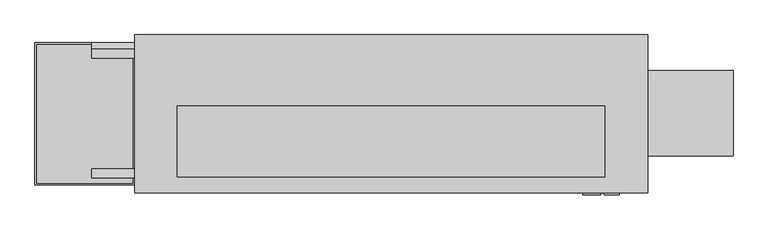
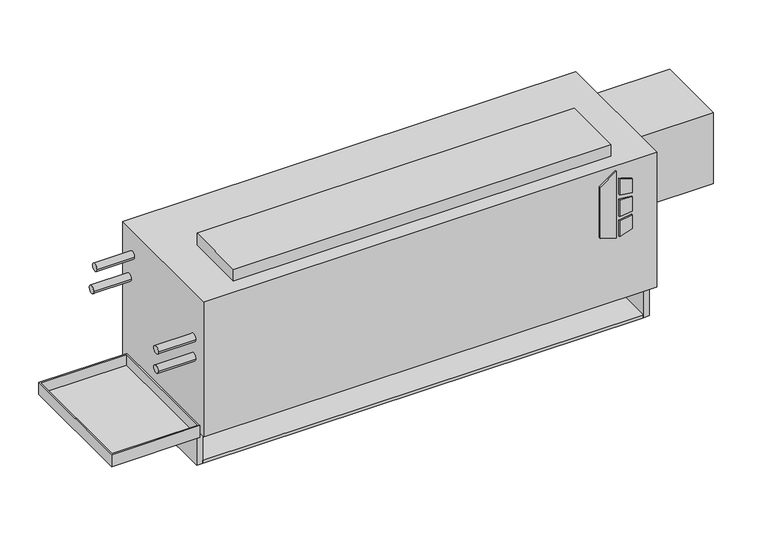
"""IFC4 building model written with IfcOpenShell, lengths in millimetres: proxy geometry, Concealed_Vertical_Low_Boy_Fan_Coil_Unit Fan_-_LHA_-_IEC_-_4-Pipe_LH_2022 : Size 04 - 277v/60Hz/1Ph - 2/1 Coil."""

from ifc_helpers import new_model, si_unit, point, frame, frame_2d, origin, origin_with_axes, place, context, project, spatial, polyline, circle_curve, trimmed, segment, composite_curve, outline, extrude, faceted_brep, source, transform, mapped, element, save


def mechanical_equipment_78d11083(model_context):
    return source(origin(), model_context, "Body", "SolidModel", [
        faceted_brep([(152.4, -252.4125, 92.075), (-25.4, -252.4125, 92.075), (-25.4, -506.4125, 92.075), (152.4, -506.4125, 92.075), (-22.225, -255.5875, 92.075), (149.225, -255.5875, 92.075), (149.225, -503.2375, 92.075), (-22.225, -503.2375, 92.075), (152.4, -252.4125, 66.675), (152.4, -506.4125, 66.675), (-25.4, -506.4125, 66.675), (-25.4, -252.4125, 66.675), (149.225, -255.5875, 69.8497888), (-22.225, -255.5875, 69.8497888), (-22.225, -503.2375, 69.8497888), (149.225, -503.2375, 69.8497888)], [[[0, 1, 2, 3], [4, 5, 6, 7]], [[8, 9, 10, 11]], [[1, 0, 8, 11]], [[2, 1, 11, 10]], [[3, 2, 10, 9]], [[0, 3, 9, 8]], [[12, 13, 14, 15]], [[13, 12, 5, 4]], [[14, 13, 4, 7]], [[15, 14, 7, 6]], [[12, 15, 6, 5]]]),
        extrude(outline(composite_curve([segment(trimmed(circle_curve(frame_2d((63.5, -379.4125)), 9.525), [point((53.975, -379.4125))], [point((73.025, -379.4125))], False, "CARTESIAN"), True, "CONTINUOUS"), segment(trimmed(circle_curve(frame_2d((63.5, -379.4125)), 9.525), [point((73.025, -379.4125))], [point((53.975, -379.4125))], False, "CARTESIAN"), True, "CONTINUOUS")], self_intersect=False)), frame((0.0, 0.0, 41.275), z_axis=(0.0, 0.0, 1.0), x_axis=(1.0, 0.0, 0.0)), (0.0, 0.0, 1.0), 25.4),
        extrude(outline(polyline([(222.6730703, 950.9868862), (212.725, 983.1602728), (354.8959244, 983.1602728), (331.8739183, 950.9868862), (222.6730703, 950.9868862)])), frame((0.0, -523.875, 0.0), z_axis=(0.0, 1.0, 0.0), x_axis=(0.0, 0.0, 1.0)), (0.0, 0.0, 1.0), 3.175),
        extrude(outline(polyline([(301.6723557, 989.9186058), (298.4699632, 1016.0), (327.6988042, 1016.0), (335.7632193, 989.9186058), (301.6723557, 989.9186058)])), frame((0.0, -523.875, 0.0), z_axis=(0.0, 1.0, 0.0), x_axis=(0.0, 0.0, 1.0)), (0.0, 0.0, 1.0), 3.175),
        extrude(outline(polyline([(249.8088288, 1016.0), (246.1433279, 989.9186058), (212.725, 989.9186058), (221.3592372, 1016.0), (249.8088288, 1016.0)])), frame((0.0, -523.875, 0.0), z_axis=(0.0, 1.0, 0.0), x_axis=(0.0, 0.0, 1.0)), (0.0, 0.0, 1.0), 3.175),
        extrude(outline(polyline([(289.1239903, 1016.0), (291.4058166, 989.9186058), (255.4682681, 989.9186058), (258.2095331, 1016.0), (289.1239903, 1016.0)])), frame((0.0, -523.875, 0.0), z_axis=(0.0, 1.0, 0.0), x_axis=(0.0, 0.0, 1.0)), (0.0, 0.0, 1.0), 3.175),
        extrude(outline(polyline([(990.6, -365.125), (990.6, -492.125), (228.6, -492.125), (228.6, -365.125), (990.6, -365.125)])), frame((0.0, 0.0, 365.125), z_axis=(0.0, 0.0, 1.0), x_axis=(1.0, 0.0, 0.0)), (0.0, 0.0, 1.0), 25.4),
        extrude(outline(polyline([(1066.8, -520.7), (152.4, -520.7), (152.4, -238.125), (1066.8, -238.125), (1066.8, -520.7)])), frame((0.0, 0.0, 76.2), z_axis=(0.0, 0.0, 1.0), x_axis=(1.0, 0.0, 0.0)), (0.0, 0.0, 1.0), 288.925),
        extrude(outline(polyline([(1054.1, -495.3), (165.1, -495.3), (165.1, -244.475), (1054.1, -244.475), (1054.1, -495.3)])), origin_with_axes(), (0.0, 0.0, 1.0), 6.35),
        extrude(outline(polyline([(1054.1, -238.125), (1054.1, -244.475), (165.1, -244.475), (165.1, -238.125), (1054.1, -238.125)])), origin_with_axes(), (0.0, 0.0, 1.0), 76.2),
        extrude(outline(polyline([(1066.8, -238.125), (1066.8, -495.3), (1054.1, -495.3), (1054.1, -238.125), (1066.8, -238.125)])), origin_with_axes(), (0.0, 0.0, 1.0), 76.2),
        extrude(outline(polyline([(165.1, -238.125), (165.1, -495.3), (152.4, -495.3), (152.4, -238.125), (165.1, -238.125)])), origin_with_axes(), (0.0, 0.0, 1.0), 76.2),
        extrude(outline(composite_curve([segment(trimmed(circle_curve(frame_2d((-271.4625, 314.325)), 7.9375), [point((-263.525, 314.325))], [point((-279.4, 314.325))], False, "CARTESIAN"), True, "CONTINUOUS"), segment(trimmed(circle_curve(frame_2d((-271.4625, 314.325)), 7.9375), [point((-279.4, 314.325))], [point((-263.525, 314.325))], False, "CARTESIAN"), True, "CONTINUOUS")], self_intersect=False)), frame((76.2, 0.0, 0.0), z_axis=(1.0, 0.0, 0.0), x_axis=(0.0, 1.0, 0.0)), (0.0, 0.0, 1.0), 76.2),
        extrude(outline(composite_curve([segment(trimmed(circle_curve(frame_2d((-260.35, 260.35)), 7.9375), [point((-252.4125, 260.35))], [point((-268.2875, 260.35))], False, "CARTESIAN"), True, "CONTINUOUS"), segment(trimmed(circle_curve(frame_2d((-260.35, 260.35)), 7.9375), [point((-268.2875, 260.35))], [point((-252.4125, 260.35))], False, "CARTESIAN"), True, "CONTINUOUS")], self_intersect=False)), frame((76.2, 0.0, 0.0), z_axis=(1.0, 0.0, 0.0), x_axis=(0.0, 1.0, 0.0)), (0.0, 0.0, 1.0), 76.2),
        extrude(outline(composite_curve([segment(trimmed(circle_curve(frame_2d((-485.775, 227.0125)), 7.9375), [point((-477.8375, 227.0125))], [point((-493.7125, 227.0125))], False, "CARTESIAN"), True, "CONTINUOUS"), segment(trimmed(circle_curve(frame_2d((-485.775, 227.0125)), 7.9375), [point((-493.7125, 227.0125))], [point((-477.8375, 227.0125))], False, "CARTESIAN"), True, "CONTINUOUS")], self_intersect=False)), frame((76.2, 0.0, 0.0), z_axis=(1.0, 0.0, 0.0), x_axis=(0.0, 1.0, 0.0)), (0.0, 0.0, 1.0), 76.2),
        extrude(outline(composite_curve([segment(trimmed(circle_curve(frame_2d((-485.775, 268.2875)), 7.9375), [point((-477.8375, 268.2875))], [point((-493.7125, 268.2875))], False, "CARTESIAN"), True, "CONTINUOUS"), segment(trimmed(circle_curve(frame_2d((-485.775, 268.2875)), 7.9375), [point((-493.7125, 268.2875))], [point((-477.8375, 268.2875))], False, "CARTESIAN"), True, "CONTINUOUS")], self_intersect=False)), frame((76.2, 0.0, 0.0), z_axis=(1.0, 0.0, 0.0), x_axis=(0.0, 1.0, 0.0)), (0.0, 0.0, 1.0), 76.2),
        extrude(outline(polyline([(1066.8, -301.625), (1219.2, -301.625), (1219.2, -454.025), (1066.8, -454.025), (1066.8, -301.625)])), frame((0.0, 0.0, 203.5632719), z_axis=(0.0, 0.0, 1.0), x_axis=(1.0, 0.0, 0.0)), (0.0, 0.0, 1.0), 152.0367281),
    ])


if __name__ == "__main__":
    model = new_model("IFC4")
    model_context = context("Model", 3, world=origin())
    ifc_project = project(units=[si_unit("LENGTHUNIT", "METRE", prefix="MILLI")], contexts=[model_context])
    site = spatial("IfcSite", under=ifc_project)
    building = spatial("IfcBuilding", under=site)
    placement = place(None, origin())
    mechanical_equipment_shape = mechanical_equipment_78d11083(model_context)
    element("IfcBuildingElementProxy", 1, Name="Concealed_Vertical_Low_Boy_Fan_Coil_Unit Fan_-_LHA_-_IEC_-_4-Pipe_LH_2022 : Size 04 - 277v/60Hz/1Ph - 2/1 Coil", ObjectType="Concealed_Vertical_Low_Boy_Fan_Coil_Unit Fan_-_LHA_-_IEC_-_4-Pipe_LH_2022 : Size 04 - 277v/60Hz/1Ph - 2/1 Coil", at=placement, inside=building, context=model_context, shape_type="MappedRepresentation", body=[
        mapped(mechanical_equipment_shape, transform((0.0, 0.0, 0.0), x_axis=(1.0, 0.0, 0.0), y_axis=(0.0, 1.0, 0.0), z_axis=(0.0, 0.0, 1.0))),
    ])
    save(model, "model.ifc")
